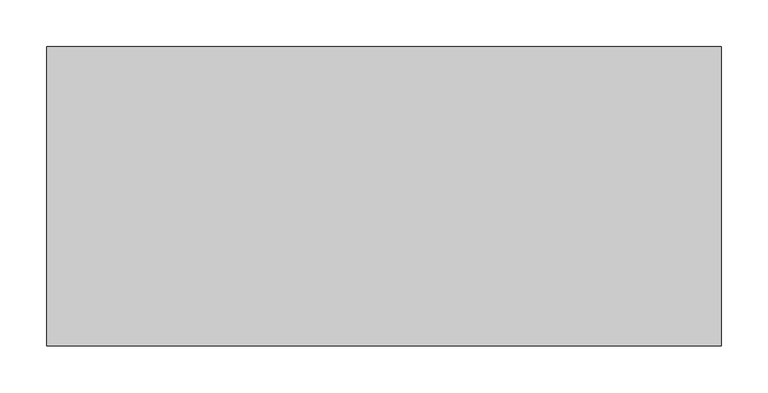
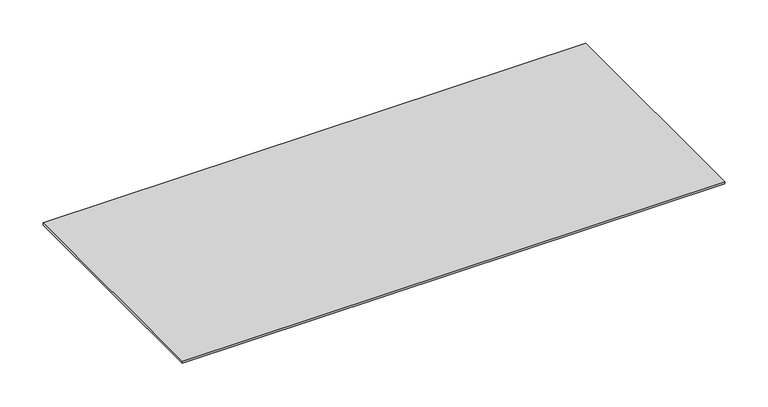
"""IFC4 building model written with IfcOpenShell, lengths in millimetres: proxy geometry, Electrical_Installation_Hager_Blank-Cover-BKAD : Electrical_Installation_Hager_Blank-Cover-BKAD."""

from ifc_helpers import new_model, si_unit, frame, origin, place, context, project, spatial, polyline, outline, extrude, source, transform, mapped, element, save


def electrical_fixtures_dd089895(model_context):
    return source(origin(), model_context, "Body", "SweptSolid", [
        extrude(outline(polyline([(720.3739687, 160.0), (720.3739687, -160.0), (0.0, -160.0), (0.0, 160.0), (720.3739687, 160.0)])), frame((0.0, 0.0, 10.0), z_axis=(0.0, 0.0, 1.0), x_axis=(1.0, 0.0, 0.0)), (0.0, 0.0, 1.0), 3.0),
    ])


if __name__ == "__main__":
    model = new_model("IFC4")
    model_context = context("Model", 3, world=origin())
    ifc_project = project(units=[si_unit("LENGTHUNIT", "METRE", prefix="MILLI")], contexts=[model_context])
    site = spatial("IfcSite", under=ifc_project)
    building = spatial("IfcBuilding", under=site)
    placement = place(None, origin())
    electrical_fixtures_shape = electrical_fixtures_dd089895(model_context)
    element("IfcBuildingElementProxy", 1, Name="Electrical_Installation_Hager_Blank-Cover-BKAD : Electrical_Installation_Hager_Blank-Cover-BKAD", ObjectType="Electrical_Installation_Hager_Blank-Cover-BKAD : Electrical_Installation_Hager_Blank-Cover-BKAD", at=placement, inside=building, context=model_context, shape_type="MappedRepresentation", body=[
        mapped(electrical_fixtures_shape, transform((0.0, 0.0, 0.0), x_axis=(1.0, 0.0, 0.0), y_axis=(0.0, 1.0, 0.0), z_axis=(0.0, 0.0, 1.0))),
    ])
    save(model, "model.ifc")
